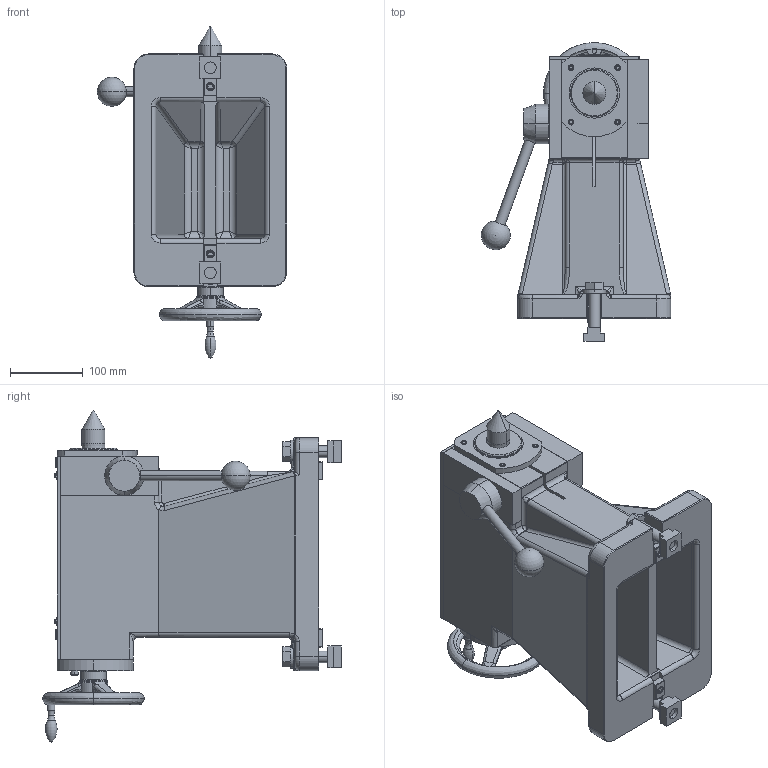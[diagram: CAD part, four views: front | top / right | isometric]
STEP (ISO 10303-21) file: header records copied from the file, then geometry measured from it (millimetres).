
FILE_DESCRIPTION (( 'STEP AP214' ), '1' );
FILE_NAME ('TS500RN.STEP', '2020-03-17T04:37:07', ( '' ), ( '' ), 'SwSTEP 2.0', 'SolidWorks 2017', '' );
FILE_SCHEMA (( 'AUTOMOTIVE_DESIGN' ));
Length unit declared in the file: millimetre
Products named in the file (14): CLAMPING PARTS(61E434402)結合; TS500RNホンタイ; クランプレバー(61E3059341)TS400RN; センタソケット(61E3437355)TS500R; ネームプレート(61E4736691); 僴儞僪儂僀乕儖V140(61E4896830)TS500R; カバー(61E4501512)TS400RN; ベアリングキャップ(61E4351801)TS500R; シールホルダ(61E4351861)TS500R; クランププレートB(61E4351831)TS500R; クランププレートA(61E4351821)TS500R; ガイドブロック(61M4197783); ボデー(61E2466502)TS500RN; TS500RN
Assembly tree (15 placements, depth 3):
  TS500RN
    TS500RNホンタイ
      ボデー(61E2466502)TS500RN
      ガイドブロック(61M4197783)  x2
      クランププレートA(61E4351821)TS500R
      クランププレートB(61E4351831)TS500R
      シールホルダ(61E4351861)TS500R
      ベアリングキャップ(61E4351801)TS500R
      カバー(61E4501512)TS400RN
      僴儞僪儂僀乕儖V140(61E4896830)TS500R
      ネームプレート(61E4736691)
      センタソケット(61E3437355)TS500R
      クランプレバー(61E3059341)TS400RN
    CLAMPING PARTS(61E434402)結合  x2
Bounding box: 260.37 x 411 x 456.4 mm (x, y, z)
Volume: 10400577.3 mm3; surface area: 962538.4 mm2
Topology: 14 solids, 14 shells, 2255 faces, 6124 edges, 3960 vertices
Faces by surface type: plane 1738, cylinder 270, bspline 135, cone 62, torus 42, sphere 8
Entity records: 94555 total; most frequent: CARTESIAN_POINT 36410, ORIENTED_EDGE 11832, DIRECTION 10282, EDGE_CURVE 5916, LINE 4898, VECTOR 4898, VERTEX_POINT 3859, AXIS2_PLACEMENT_3D 2692
